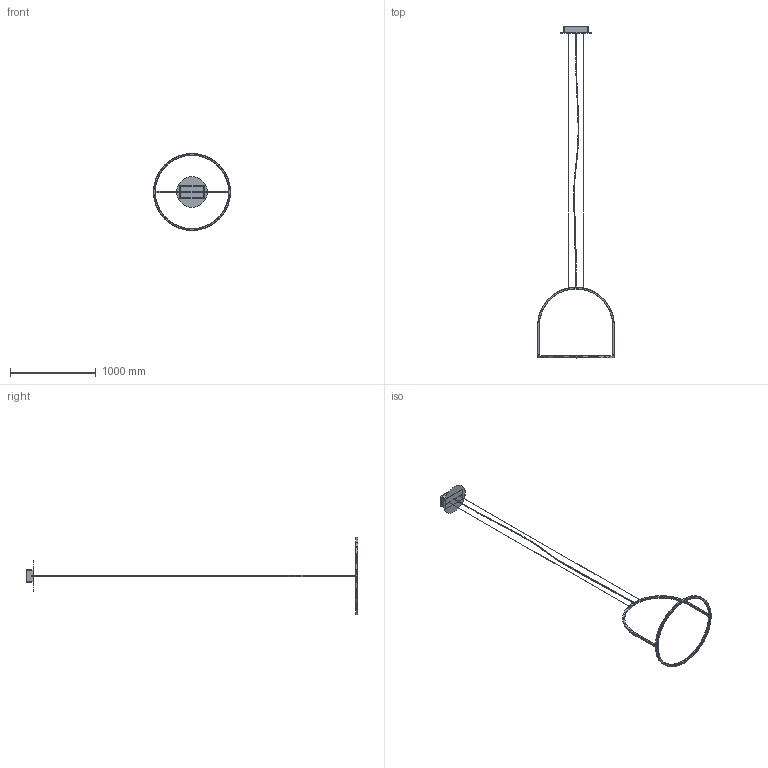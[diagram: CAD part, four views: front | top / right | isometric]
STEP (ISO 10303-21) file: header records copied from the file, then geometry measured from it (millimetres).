
FILE_DESCRIPTION (( 'STEP AP203' ), '1' );
FILE_NAME ('SPULI090XXXXXXX.STEP', '2025-11-17T15:22:31', ( '' ), ( '' ), 'SwSTEP 2.0', 'SolidWorks 2024', '' );
FILE_SCHEMA (( 'CONFIG_CONTROL_DESIGN' ));
Length unit declared in the file: millimetre
Products named in the file (21): WSCM2C0024-0128-00; SPULI090XXXXXXX; WSCM2A0021-0733-00; WSMCVIA-04A10-0141_WSMCVIA-04A10-0141; WSASS-000000015-33-01; WSCM2D0009-0733-00; WSMCROB04-----0141_MC-R002-EX-FE-00; TANG YAO-7727-P215 + RIV TESSILE 33; WSA5068-03-6-0-11-; WSCM2A0023-0733-00; MSPULI090LEDANXX; WSCM2J0004-0133-01; WSCM2D0012-0733-00; WSMCDAA-13C30-0141; WSCM2C0028-0128-00; WSCEE0000000000003; WSCA12493000A4040A; WSCM2A0022-0733-00; WSMCROA13--20-0141_MC-R008-IX-FE-00; WSCP2F0006-0403-00; WSCM2C0025-0100-02
Assembly tree (27 placements, depth 4):
  SPULI090XXXXXXX
    WSASS-000000015-33-01
      WSCM2C0024-0128-00
      WSCM2J0004-0133-01
        WSCM2C0025-0100-02
        WSCM2C0028-0128-00  x2
        WSCEE0000000000003
      WSMCVIA-04A10-0141_WSMCVIA-04A10-0141  x2
      WSMCROB04-----0141_MC-R002-EX-FE-00  x2
      WSCM2A0021-0733-00
      WSMCROA13--20-0141_MC-R008-IX-FE-00
      WSMCDAA-13C30-0141
    MSPULI090LEDANXX
      WSCM2D0009-0733-00
      WSCM2A0023-0733-00  x2
      WSCM2D0012-0733-00
      WSCM2A0022-0733-00
      WSCA12493000A4040A  x2
      TANG YAO-7727-P215 + RIV TESSILE 33
      WSA5068-03-6-0-11-
      WSCP2F0006-0403-00  x3
Bounding box: 900 x 3876.61 x 900 mm (x, y, z)
Volume: 1681590.6 mm3; surface area: 1382253.3 mm2
Topology: 24 solids, 24 shells, 798 faces, 2070 edges, 1249 vertices
Faces by surface type: plane 323, cylinder 190, cone 105, bspline 100, torus 72, sphere 8
Entity records: 27383 total; most frequent: CARTESIAN_POINT 9990, ORIENTED_EDGE 3120, DIRECTION 3097, EDGE_CURVE 1560, AXIS2_PLACEMENT_3D 1193, VERTEX_POINT 975, EDGE_LOOP 737, VECTOR 711
